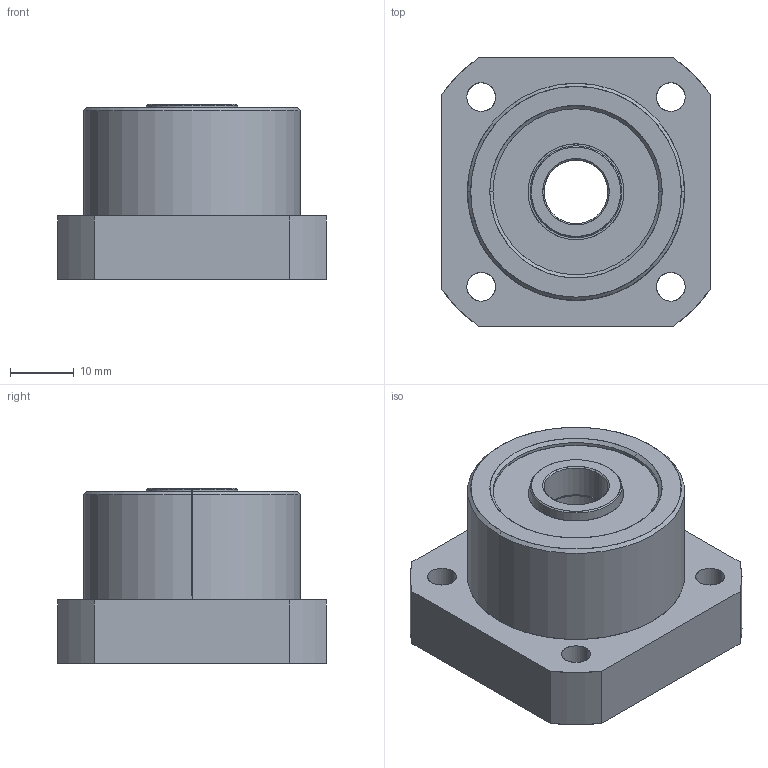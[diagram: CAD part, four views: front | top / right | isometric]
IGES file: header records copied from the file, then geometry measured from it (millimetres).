
Start section: SolidWorks IGES file using analytic representation for surfaces
Global section: file name: E:\同创达图纸\产品示意图\3D选型图\支撑座\FK系列\FK10.IGS; native system: SolidWorks 2012; preprocessor: SolidWorks 2012; author: gao; date: 130702.204657; units: millimetre
Bounding box: 42 x 42 x 27.5 mm (x, y, z)
Surface area: 9390 mm2 (no closed solid volume)
Topology: 0 solids, 0 shells, 81 faces, 1504 edges, 1504 vertices
Faces by surface type: revolution 62, bspline 19
